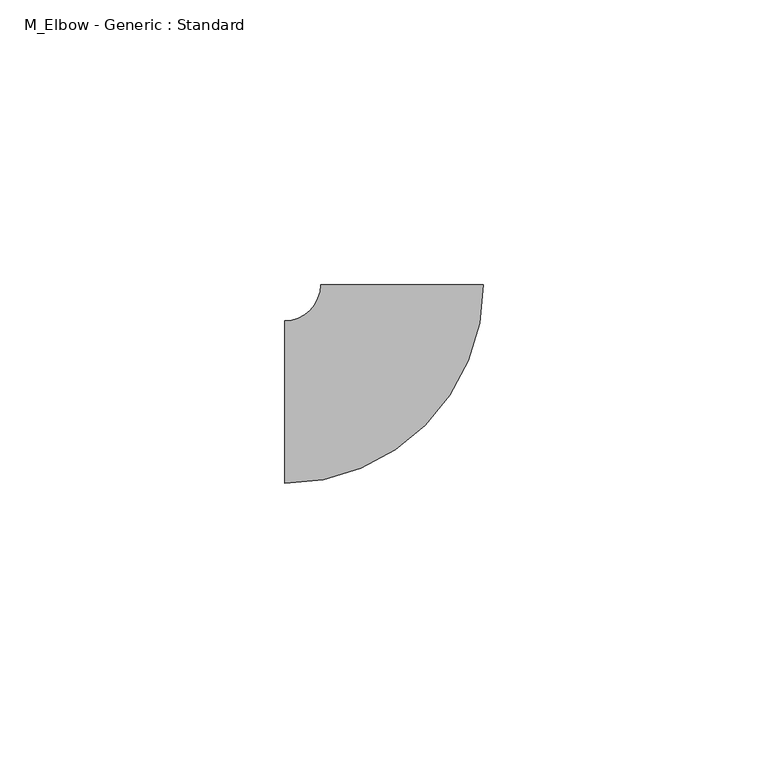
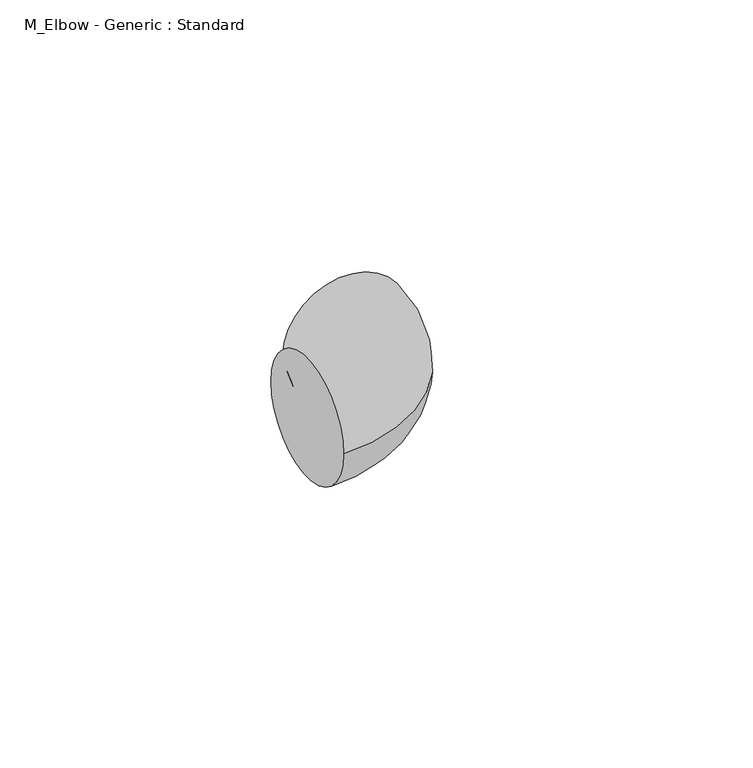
"""IFC4 building model written with IfcOpenShell, lengths in millimetres: pipe fitting geometry, M_Elbow - Generic : Standard."""

from ifc_helpers import new_model, si_unit, point, frame, origin, place, context, project, spatial, circle_curve, ellipse_curve, trimmed, source, transform, mapped, element, save
from ifc_brep_helpers import plane_surface, revolved_surface, advanced_brep


def m_elbow_generic_standard_773e5a53(model_context):
    return source(origin(), model_context, "Body", "AdvancedBrep", [
        advanced_brep(
        [(-20.6441749, -14.2875, 0.0), (-20.6441749, 14.2875, 0.0), (14.2808232, 20.6487942, 0.0), (-14.2941753, 20.6395535, 0.0)],
        [
            (0, 1, circle_curve(frame((-20.6441749, 0.0, 0.0), z_axis=(-1.0, 0.0, 0.0), x_axis=(0.0, 1.0, 0.0)), 14.2875)),
            (1, 0, circle_curve(frame((-20.6441749, 0.0, 0.0), z_axis=(-1.0, 0.0, 0.0), x_axis=(0.0, 1.0, 0.0)), 14.2875)),
            (2, 3, circle_curve(frame((-0.006676, 20.6441739, 0.0), z_axis=(-0.0003233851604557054, 0.9999999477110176, 0.0), x_axis=(-0.9999999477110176, -0.0003233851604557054, 0.0)), 14.2875)),
            (3, 2, circle_curve(frame((-0.006676, 20.6441739, 0.0), z_axis=(-0.0003233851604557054, 0.9999999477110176, 0.0), x_axis=(-0.9999999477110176, -0.0003233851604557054, 0.0)), 14.2875)),
            (3, 1, circle_curve(frame((-20.6441749, 20.6375, 0.0), z_axis=(0.0, 0.0, -1.0), x_axis=(0.0, -1.0, 0.0)), 6.35)),
            (0, 2, circle_curve(frame((-20.6441749, 20.6375, 0.0), z_axis=(0.0, 0.0, 1.0), x_axis=(0.0, -1.0, 0.0)), 34.925)),
        ],
        [
            plane_surface(frame((-20.6441749, 0.0, 0.0), z_axis=(-1.0, 0.0, 0.0), x_axis=(0.0, 0.0, 1.0))),
            plane_surface(frame((-0.006676, 20.6441739, 0.0), z_axis=(-0.0003233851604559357, 0.9999999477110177, 0.0), x_axis=(0.0, 0.0, 1.0))),
            revolved_surface(trimmed(ellipse_curve(frame((-20.6441749, 0.0, 0.0), z_axis=(-1.0, 0.0, 0.0), x_axis=(0.0, 1.0, 0.0)), 14.2875, 14.2875), [point((-20.6441749, -14.2875, 0.0))], [point((-20.6441749, 14.2875, 0.0))], True, "CARTESIAN"), (-20.6441749, 20.6375, 0.0), (0.0, 0.0, 1.0)),
            revolved_surface(trimmed(ellipse_curve(frame((-20.6441749, 0.0, 0.0), z_axis=(-1.0, 0.0, 0.0), x_axis=(0.0, 1.0, 0.0)), 14.2875, 14.2875), [point((-20.6441749, 14.2875, 0.0))], [point((-20.6441749, -14.2875, 0.0))], True, "CARTESIAN"), (-20.6441749, 20.6375, 0.0), (0.0, 0.0, 1.0)),
        ],
        [
            (0, [[1, 2]]),
            (1, [[3, 4]]),
            (2, [[5, -1, 6, -4]]),
            (3, [[-6, -2, -5, -3]]),
        ],
    ),
    ])


if __name__ == "__main__":
    model = new_model("IFC4")
    model_context = context("Model", 3, world=origin())
    ifc_project = project(units=[si_unit("LENGTHUNIT", "METRE", prefix="MILLI")], contexts=[model_context])
    site = spatial("IfcSite", under=ifc_project)
    building = spatial("IfcBuilding", under=site)
    placement = place(None, origin())
    m_elbow_generic_standard_shape = m_elbow_generic_standard_773e5a53(model_context)
    element("IfcPipeFitting", 1, ObjectType="M_Elbow - Generic : Standard", at=placement, inside=building, context=model_context, shape_type="MappedRepresentation", body=[
        mapped(m_elbow_generic_standard_shape, transform((0.0, 0.0, 0.0), x_axis=(1.0, 0.0, 0.0), y_axis=(0.0, 1.0, 0.0), z_axis=(0.0, 0.0, 1.0))),
    ])
    save(model, "model.ifc")
